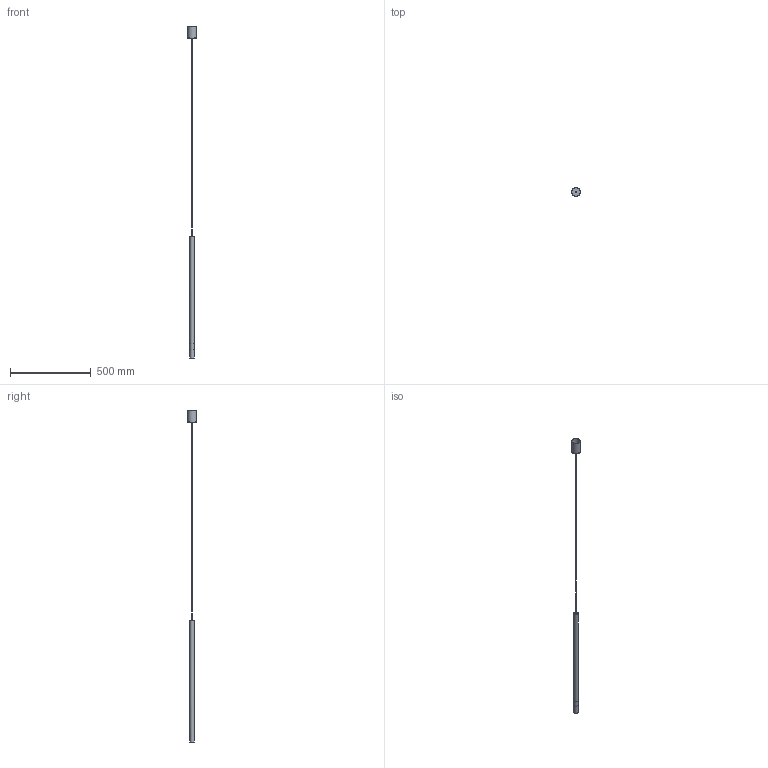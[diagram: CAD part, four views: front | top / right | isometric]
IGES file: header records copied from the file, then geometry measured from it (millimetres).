
Start section: SolidWorks IGES file using NURBS representation for surfaces
Global section: file name: Z:\Modele 3D_WWW\_KOLEKCJE WWW\LASER\8433\LASER-750-8433.IGS; native system: SolidWorks 2021; preprocessor: SolidWorks 2021; author: gabriela.tworek; date: 220217.114712; units: millimetre
Bounding box: 54.99 x 55 x 2049.52 mm (x, y, z)
Surface area: 171070.7 mm2 (no closed solid volume)
Topology: 0 solids, 0 shells, 18 faces, 72 edges, 64 vertices
Faces by surface type: bspline 18
